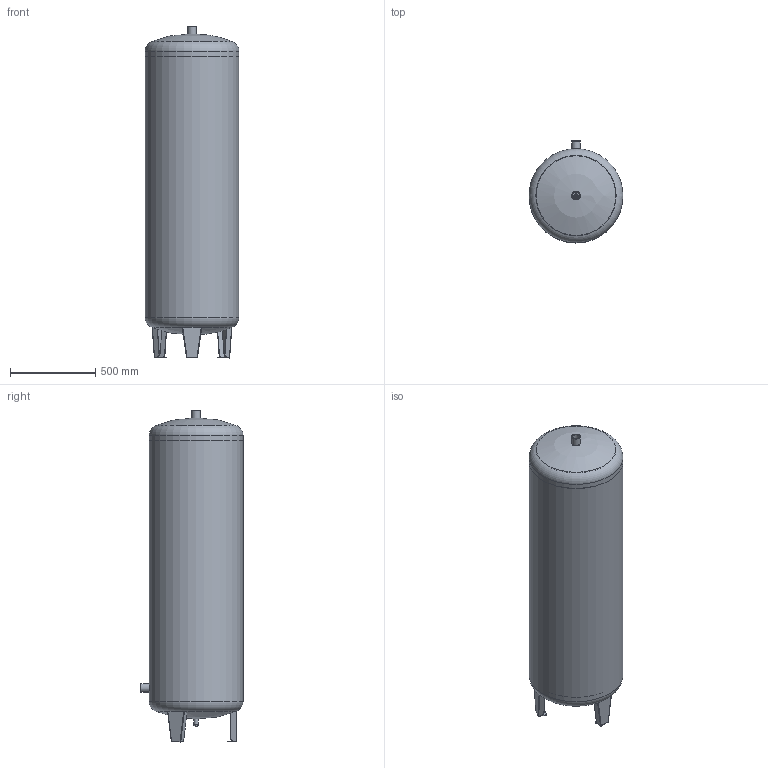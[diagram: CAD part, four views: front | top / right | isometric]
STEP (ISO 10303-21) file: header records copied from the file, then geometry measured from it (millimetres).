
FILE_DESCRIPTION((''),'2;1');
FILE_NAME('C:\Vault\Inventor\Expansion\elko-mat\EV\EV 350\EV350-10-110.stp','2012-06-11T14:10:45',('Walder'),(''),'Autodesk Inventor 11','Autodesk Inventor 11','');
FILE_SCHEMA(('AUTOMOTIVE_DESIGN { 1 0 10303 214 1 1 1 1 }'));
Length unit declared in the file: millimetre
Products named in the file (1): EV350-10-110
Bounding box: 550 x 598 x 1945.23 mm (x, y, z)
Volume: 14718797.8 mm3; surface area: 6747384.5 mm2
Topology: 4 solids, 4 shells, 444 faces, 1079 edges, 654 vertices
Faces by surface type: plane 208, cylinder 117, bspline 113, torus 3, cone 3
Full cylindrical faces by diameter (mm): 14 x1, 20 x1, 20.96 x1, 27 x1, 41.91 x1, 50 x2, 538 x2, 542 x1, 550 x2
Entity records: 19220 total; most frequent: CARTESIAN_POINT 9699, ORIENTED_EDGE 2086, DIRECTION 1649, EDGE_CURVE 1043, VERTEX_POINT 647, VECTOR 623, LINE 623, AXIS2_PLACEMENT_3D 513
